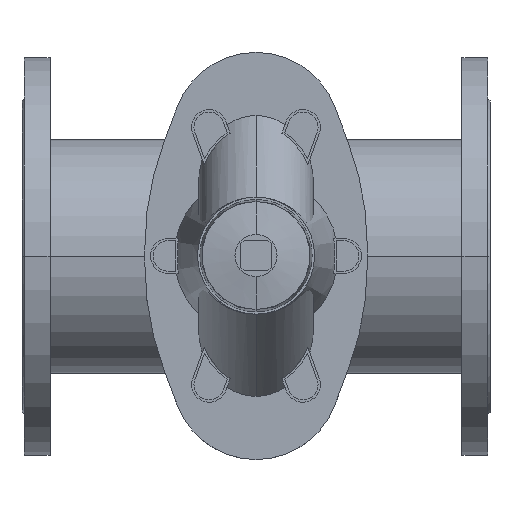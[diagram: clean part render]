
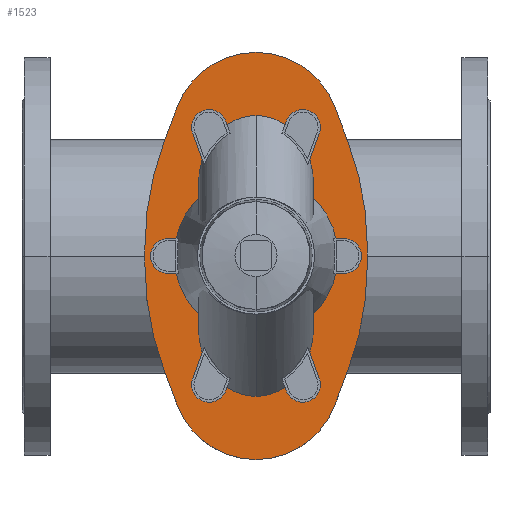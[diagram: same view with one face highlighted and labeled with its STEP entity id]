
A CAD part, top view. The second image highlights one B-rep face of the part: STEP entity #1523.
In plain terms, the highlighted planar face has unit normal (0, 0, 1).
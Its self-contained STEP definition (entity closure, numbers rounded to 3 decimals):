
#1523=ADVANCED_FACE('',(#3000),#3001,.T.);
#3000=FACE_OUTER_BOUND('',#4920,.T.);
#3001=PLANE('',#4921);
#4920=EDGE_LOOP('',(#7733,#7734,#7735,#7736,#7737,#7738,#7739,#7740,#7741,#7742,#7743,#7744,#7745,#7746));
#4921=AXIS2_PLACEMENT_3D('',#7747,#7748,#7749);
#7733=ORIENTED_EDGE('',*,*,#10463,.F.);
#7734=ORIENTED_EDGE('',*,*,#11025,.F.);
#7735=ORIENTED_EDGE('',*,*,#10599,.F.);
#7736=ORIENTED_EDGE('',*,*,#11026,.F.);
#7737=ORIENTED_EDGE('',*,*,#11027,.F.);
#7738=ORIENTED_EDGE('',*,*,#10180,.F.);
#7739=ORIENTED_EDGE('',*,*,#11028,.F.);
#7740=ORIENTED_EDGE('',*,*,#11029,.F.);
#7741=ORIENTED_EDGE('',*,*,#11030,.F.);
#7742=ORIENTED_EDGE('',*,*,#11031,.F.);
#7743=ORIENTED_EDGE('',*,*,#10498,.F.);
#7744=ORIENTED_EDGE('',*,*,#11032,.F.);
#7745=ORIENTED_EDGE('',*,*,#10682,.F.);
#7746=ORIENTED_EDGE('',*,*,#11033,.F.);
#7747=CARTESIAN_POINT('',(200.051,0.001,281.0));
#7748=DIRECTION('',(0.0,0.0,1.0));
#7749=DIRECTION('',(1.0,0.0,0.0));
#10180=EDGE_CURVE('',#12002,#12004,#12005,.T.);
#10463=EDGE_CURVE('',#12480,#12481,#12482,.T.);
#10498=EDGE_CURVE('',#12532,#12535,#12536,.T.);
#10599=EDGE_CURVE('',#12694,#12695,#12696,.T.);
#10682=EDGE_CURVE('',#12826,#12829,#12830,.T.);
#11025=EDGE_CURVE('',#12695,#12480,#13330,.T.);
#11026=EDGE_CURVE('',#13331,#12694,#13332,.T.);
#11027=EDGE_CURVE('',#12004,#13331,#13333,.T.);
#11028=EDGE_CURVE('',#13334,#12002,#13335,.T.);
#11029=EDGE_CURVE('',#13336,#13334,#13337,.T.);
#11030=EDGE_CURVE('',#13338,#13336,#13339,.T.);
#11031=EDGE_CURVE('',#12535,#13338,#13340,.T.);
#11032=EDGE_CURVE('',#12829,#12532,#13341,.T.);
#11033=EDGE_CURVE('',#12481,#12826,#13342,.T.);
#12002=VERTEX_POINT('',#14513);
#12004=VERTEX_POINT('',#14516);
#12005=CIRCLE('',#14517,250.48);
#12480=VERTEX_POINT('',#15126);
#12481=VERTEX_POINT('',#15127);
#12482=LINE('',#15128,#15129);
#12532=VERTEX_POINT('',#15195);
#12535=VERTEX_POINT('',#15199);
#12536=CIRCLE('',#15200,261.98);
#12694=VERTEX_POINT('',#15395);
#12695=VERTEX_POINT('',#15396);
#12696=LINE('',#15397,#15398);
#12826=VERTEX_POINT('',#15576);
#12829=VERTEX_POINT('',#15580);
#12830=CIRCLE('',#15581,261.98);
#13330=CIRCLE('',#16216,71.99);
#13331=VERTEX_POINT('',#16217);
#13332=CIRCLE('',#16218,250.48);
#13333=CIRCLE('',#16219,250.48);
#13334=VERTEX_POINT('',#16220);
#13335=CIRCLE('',#16221,250.48);
#13336=VERTEX_POINT('',#16222);
#13337=LINE('',#16223,#16224);
#13338=VERTEX_POINT('',#16225);
#13339=CIRCLE('',#16226,71.99);
#13340=LINE('',#16227,#16228);
#13341=CIRCLE('',#16229,261.98);
#13342=CIRCLE('',#16230,261.98);
#14513=CARTESIAN_POINT('',(295.134,8.121,281.0));
#14516=CARTESIAN_POINT('',(294.997,-0.153,281.0));
#14517=AXIS2_PLACEMENT_3D('',#17461,#17462,#17463);
#15126=CARTESIAN_POINT('',(132.646,-127.417,281.0));
#15127=CARTESIAN_POINT('',(121.792,-98.634,281.0));
#15128=CARTESIAN_POINT('',(121.792,-98.634,281.0));
#15129=VECTOR('',#17859,1.0);
#15195=CARTESIAN_POINT('',(104.94,6.191,281.0));
#15199=CARTESIAN_POINT('',(121.792,98.634,281.0));
#15200=AXIS2_PLACEMENT_3D('',#17901,#17902,#17903);
#15395=CARTESIAN_POINT('',(279.041,-96.424,281.0));
#15396=CARTESIAN_POINT('',(267.373,-127.395,281.0));
#15397=CARTESIAN_POINT('',(267.373,-127.395,281.0));
#15398=VECTOR('',#18058,1.0);
#15576=CARTESIAN_POINT('',(104.94,-6.191,281.0));
#15580=CARTESIAN_POINT('',(105.013,0.,281.0));
#15581=AXIS2_PLACEMENT_3D('',#18144,#18145,#18146);
#16216=AXIS2_PLACEMENT_3D('',#18621,#18622,#18623);
#16217=CARTESIAN_POINT('',(295.124,-8.117,281.0));
#16218=AXIS2_PLACEMENT_3D('',#18624,#18625,#18626);
#16219=AXIS2_PLACEMENT_3D('',#18627,#18628,#18629);
#16220=CARTESIAN_POINT('',(279.022,96.504,281.0));
#16221=AXIS2_PLACEMENT_3D('',#18630,#18631,#18632);
#16222=CARTESIAN_POINT('',(267.365,127.417,281.0));
#16223=CARTESIAN_POINT('',(279.022,96.504,281.0));
#16224=VECTOR('',#18633,1.);
#16225=CARTESIAN_POINT('',(132.646,127.417,281.0));
#16226=AXIS2_PLACEMENT_3D('',#18634,#18635,#18636);
#16227=CARTESIAN_POINT('',(132.646,127.417,281.0));
#16228=VECTOR('',#18637,1.0);
#16229=AXIS2_PLACEMENT_3D('',#18638,#18639,#18640);
#16230=AXIS2_PLACEMENT_3D('',#18641,#18642,#18643);
#17461=CARTESIAN_POINT('',(44.654,8.121,281.0));
#17462=DIRECTION('',(0.0,0.0,-1.0));
#17463=DIRECTION('',(1.0,0.0,0.0));
#17859=DIRECTION('',(-0.353,0.936,0.0));
#17901=CARTESIAN_POINT('',(366.92,6.191,281.0));
#17902=DIRECTION('',(0.0,0.0,-1.0));
#17903=DIRECTION('',(1.0,0.0,0.0));
#18058=DIRECTION('',(-0.353,-0.936,-0.0));
#18144=CARTESIAN_POINT('',(366.92,-6.191,281.0));
#18145=DIRECTION('',(0.0,0.0,-1.0));
#18146=DIRECTION('',(1.0,0.0,0.0));
#18621=CARTESIAN_POINT('',(200.005,-102.014,281.0));
#18622=DIRECTION('',(0.0,0.0,-1.0));
#18623=DIRECTION('',(1.0,0.0,0.0));
#18624=CARTESIAN_POINT('',(44.644,-8.117,281.0));
#18625=DIRECTION('',(0.0,0.0,-1.0));
#18626=DIRECTION('',(1.0,0.0,0.0));
#18627=CARTESIAN_POINT('',(44.644,-8.117,281.0));
#18628=DIRECTION('',(0.0,0.0,-1.0));
#18629=DIRECTION('',(1.0,0.0,0.0));
#18630=CARTESIAN_POINT('',(44.654,8.121,281.0));
#18631=DIRECTION('',(0.0,0.0,-1.0));
#18632=DIRECTION('',(1.0,0.0,0.0));
#18633=DIRECTION('',(0.353,-0.936,0.0));
#18634=CARTESIAN_POINT('',(200.005,102.014,281.0));
#18635=DIRECTION('',(0.0,0.0,-1.0));
#18636=DIRECTION('',(1.0,0.0,0.0));
#18637=DIRECTION('',(0.353,0.936,0.0));
#18638=CARTESIAN_POINT('',(366.92,6.191,281.0));
#18639=DIRECTION('',(0.0,0.0,-1.0));
#18640=DIRECTION('',(1.0,0.0,0.0));
#18641=CARTESIAN_POINT('',(366.92,-6.191,281.0));
#18642=DIRECTION('',(0.0,0.0,-1.0));
#18643=DIRECTION('',(1.0,0.0,0.0));
